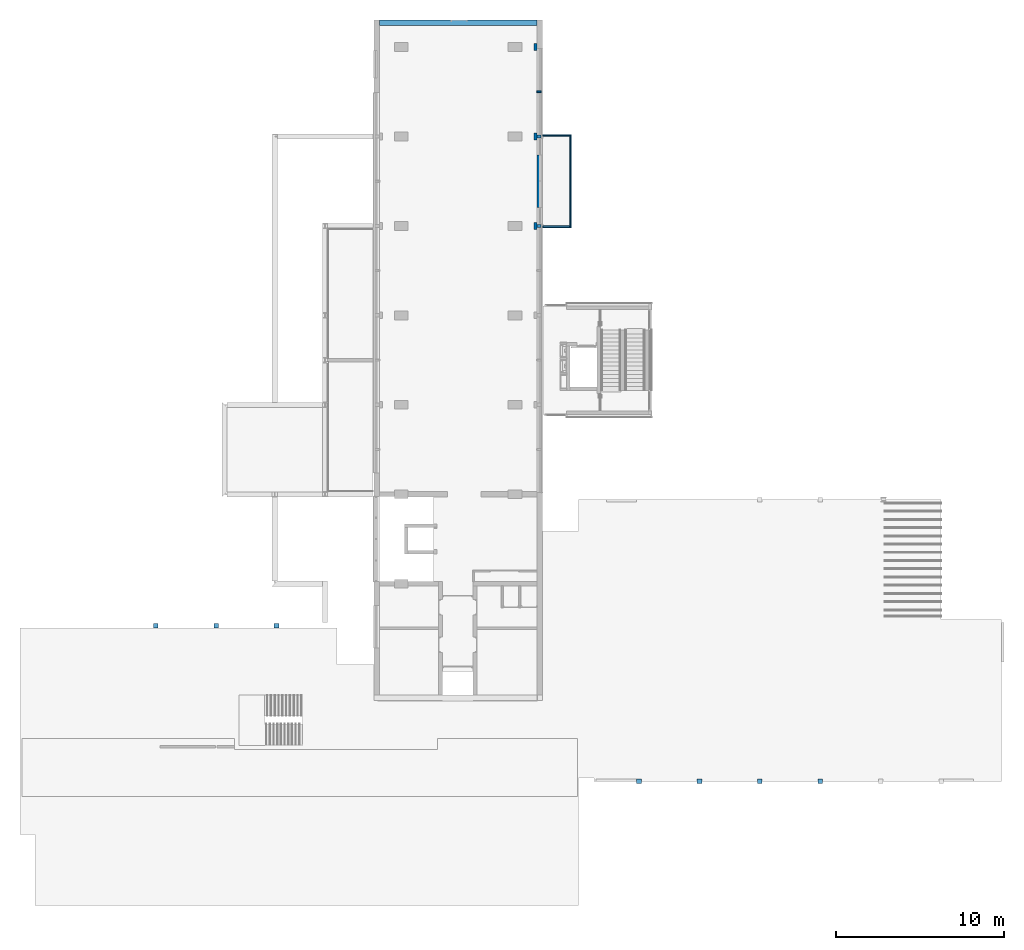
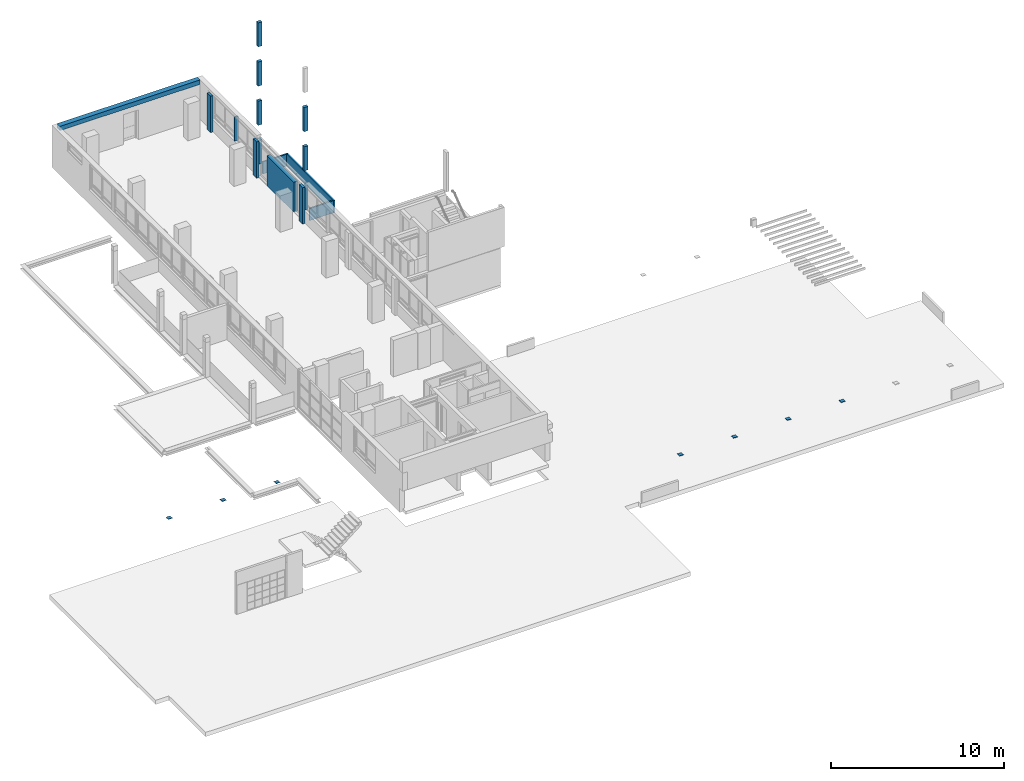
# One storey, part 13 of 22: 23 walls.
"""IFC2X3 building model written with IfcOpenShell, lengths in millimetres."""

from ifc_helpers import new_model, entity, si_unit, converted_unit, derived_unit, money_unit, direction, frame, origin_with_axes, place, context, subcontext, project, spatial, faceted_brep, material, type_object, element, save


model = new_model("IFC2X3")

# Units and contexts
model_context = context("Model", 3, precision=0.01, world=origin_with_axes(), true_north=direction((0.0, 1.0)))
body_context = subcontext(model_context, "Body", "Model", "MODEL_VIEW")
ifc_project = project(units=[si_unit("LENGTHUNIT", "METRE", prefix="MILLI"), si_unit("AREAUNIT", "SQUARE_METRE"), si_unit("VOLUMEUNIT", "CUBIC_METRE"), converted_unit("PLANEANGLEUNIT", "DEGREE", entity("IfcPlaneAngleMeasure", 0.0174532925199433), si_unit("PLANEANGLEUNIT", "RADIAN"), dimensions=[0, 0, 0, 0, 0, 0, 0]), money_unit("EUR"), converted_unit("TIMEUNIT", "Year", entity("IfcTimeMeasure", 31557600.0), si_unit("TIMEUNIT", "SECOND"), dimensions=[0, 0, 1, 0, 0, 0, 0]), si_unit("MASSUNIT", "GRAM", prefix="KILO"), si_unit("THERMODYNAMICTEMPERATUREUNIT", "DEGREE_CELSIUS"), si_unit("LUMINOUSINTENSITYUNIT", "LUMEN"), si_unit("ENERGYUNIT", "JOULE", prefix="MEGA"), derived_unit("THERMALCONDUCTANCEUNIT", [(si_unit("POWERUNIT", "WATT"), 1), (si_unit("LENGTHUNIT", "METRE"), -1), (si_unit("THERMODYNAMICTEMPERATUREUNIT", "KELVIN"), -1)]), derived_unit("SPECIFICHEATCAPACITYUNIT", [(si_unit("ENERGYUNIT", "JOULE"), 1), (si_unit("MASSUNIT", "GRAM", prefix="KILO"), -1), (si_unit("THERMODYNAMICTEMPERATUREUNIT", "KELVIN"), -1)]), derived_unit("MASSDENSITYUNIT", [(si_unit("MASSUNIT", "GRAM", prefix="KILO"), 1), (si_unit("VOLUMEUNIT", "CUBIC_METRE"), -1)])], contexts=[model_context])

# Site, building, storey
site_placement = place(None, origin_with_axes())
site = spatial("IfcSite", under=ifc_project, at=site_placement, Name="Site", CompositionType="ELEMENT")
building_placement = place(site_placement, origin_with_axes())
building = spatial("IfcBuilding", under=site, at=building_placement, Name="Naam gebouw", CompositionType="ELEMENT")
storey_placement = place(building_placement, frame((0.0, 0.0, 8690.0), z_axis=(0.0, 0.0, 1.0), x_axis=(1.0, 0.0, 0.0)))
storey = spatial("IfcBuildingStorey", under=building, at=storey_placement, Name="2e verdieping V", CompositionType="ELEMENT", Elevation=8690.0)

# Walls
ifc_material = material(Name="ALG - CONSTRUCTIEF")
wall_type_1 = type_object("IfcWallType", Name="ALG - CONSTRUCTIEF 100", PredefinedType="NOTDEFINED")
wall_1_placement = place(storey_placement, frame((31924.99999999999, 49325.9124251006, -99.99999999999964), z_axis=(0.0, 0.0, 1.0), x_axis=(0.0, -1.0, 0.0)))
element("IfcWall", 1, at=wall_1_placement, inside=storey, type_object=wall_type_1, material=ifc_material, Name="_Wand-x", context=body_context, shape_type="Brep", body=[
    faceted_brep([(5479.999999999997, 50.00000000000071, 949.9999999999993), (5479.999999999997, 50.00000000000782, 99.99999999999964), (49.99999999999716, 50.00000000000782, 99.99999999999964), (49.99999999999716, 50.00000000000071, 949.9999999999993), (5479.999999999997, -50.00000000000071, 949.9999999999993), (5479.999999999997, -50.00000000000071, 99.99999999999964), (49.99999999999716, -50.00000000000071, 99.99999999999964), (49.99999999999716, -50.00000000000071, 949.9999999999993)], [[[0, 1, 2, 3]], [[4, 5, 1, 0]], [[5, 6, 2, 1]], [[3, 2, 6, 7]], [[7, 4, 0, 3]], [[7, 6, 5, 4]]]),
])
wall_2_placement = place(storey_placement, frame((30274.99999999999, 43895.9124251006, -99.99999999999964), z_axis=(0.0, 0.0, 1.0), x_axis=(1.0, 0.0, 0.0)))
element("IfcWall", 2, at=wall_2_placement, inside=storey, type_object=wall_type_1, material=ifc_material, Name="_Wand-x", context=body_context, shape_type="Brep", body=[
    faceted_brep([(1600.000000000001, -49.99999999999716, 949.9999999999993), (1600.000000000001, -49.99999999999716, 99.99999999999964), (1600.000000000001, 49.99999999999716, 99.99999999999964), (1600.000000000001, 49.99999999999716, 949.9999999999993), (0.0, -49.99999999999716, 949.9999999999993), (0.0, -49.99999999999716, 99.99999999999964), (0.0, 49.99999999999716, 99.99999999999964), (0.0, 49.99999999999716, 949.9999999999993)], [[[0, 1, 2, 3]], [[4, 5, 1, 0]], [[5, 6, 2, 1]], [[3, 2, 6, 7]], [[4, 0, 3, 7]], [[7, 6, 5, 4]]]),
])
wall_3_placement = place(storey_placement, frame((30274.99999999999, 49325.9124251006, -99.99999999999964), z_axis=(0.0, 0.0, 1.0), x_axis=(1.0, 0.0, 0.0)))
element("IfcWall", 3, at=wall_3_placement, inside=storey, type_object=wall_type_1, material=ifc_material, Name="_Wand-x", context=body_context, shape_type="Brep", body=[
    faceted_brep([(1699.999999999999, -49.99999999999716, 949.9999999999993), (1700.000000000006, -49.99999999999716, 99.99999999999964), (1700.000000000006, 50.00000000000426, 99.99999999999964), (1699.999999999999, 49.99999999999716, 949.9999999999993), (0.0, -49.99999999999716, 949.9999999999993), (0.0, -49.99999999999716, 99.99999999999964), (0.0, 50.00000000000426, 99.99999999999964), (0.0, 49.99999999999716, 949.9999999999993)], [[[0, 1, 2, 3]], [[4, 5, 1, 0]], [[5, 6, 2, 1]], [[3, 2, 6, 7]], [[4, 0, 3, 7]], [[7, 6, 5, 4]]]),
])
wall_type_2 = type_object("IfcWallType", Name="ALG - CONSTRUCTIEF 330", PredefinedType="NOTDEFINED")
wall_4_placement = place(storey_placement, frame((20536.0, 56215.91242510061, 0.0), z_axis=(0.0, 0.0, 1.0), x_axis=(1.0, 0.0, 0.0)))
element("IfcWall", 4, at=wall_4_placement, inside=storey, type_object=wall_type_2, material=ifc_material, Name="_Wand-x", context=body_context, shape_type="Brep", body=[
    faceted_brep([(9370.000000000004, 0.0, 2460.000000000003), (0.0, 0.0, 2460.000000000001), (0.0, 0.0, 2770.000000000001), (9370.000000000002, 0.0, 2770.000000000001), (9370.000000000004, -329.9999999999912, 2460.000000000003), (0.0, -329.9999999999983, 2460.000000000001), (0.0, -329.9999999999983, 2770.000000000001), (9370.000000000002, -329.9999999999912, 2770.000000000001)], [[[0, 1, 2, 3]], [[4, 5, 1, 0]], [[5, 6, 2, 1]], [[3, 2, 6, 7]], [[7, 4, 0, 3]], [[7, 6, 5, 4]]]),
])
wall_type_3 = type_object("IfcWallType", Name="ALG - CONSTRUCTIEF 400", PredefinedType="NOTDEFINED")
for number, where, z_axis, x_axis, name in (
    (5, (29745.0, 43945.9124251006, -99.99999999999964), (0.0, 0.0, 1.0), (1.0, 0.0, 0.0), "_Wand-x"),
    (6, (29745.0, 54605.9124251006, -99.99999999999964), (0.0, 0.0, 1.0), (1.0, 0.0, 0.0), "_Wand-x"),
    (7, (29745.0, 49275.9124251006, -99.99999999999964), (0.0, 0.0, 1.0), (1.0, 0.0, 0.0), "_Wand-x"),
):
    element("IfcWall", number, at=place(storey_placement, frame(where, z_axis=z_axis, x_axis=x_axis)), inside=storey, type_object=wall_type_3, material=ifc_material, Name=name, context=body_context, shape_type="Brep", body=[
        faceted_brep([(0.0, 200.0000000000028, 99.99999999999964), (0.0, 200.0000000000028, 2670.000000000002), (161.0000000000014, 200.0000000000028, 2670.000000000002), (161.0000000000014, 200.0000000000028, 99.99999999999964), (0.0, -200.0000000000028, 99.99999999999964), (0.0, -200.0000000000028, 2670.000000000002), (161.0000000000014, -200.0000000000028, 2670.000000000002), (161.0000000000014, -200.0000000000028, 99.99999999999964)], [[[0, 1, 2, 3]], [[4, 5, 1, 0]], [[5, 6, 2, 1]], [[3, 2, 6, 7]], [[4, 0, 3, 7]], [[7, 6, 5, 4]]]),
    ])
wall_type_4 = type_object("IfcWallType", Name="ALG - CONSTRUCTIEF 260", PredefinedType="NOTDEFINED")
wall_5_placement = place(storey_placement, frame((30166.0, 49175.91242510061, 9160.000000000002), z_axis=(0.0, 0.0, 1.0), x_axis=(0.0, 1.0, 0.0)))
element("IfcWall", 8, at=wall_5_placement, inside=storey, type_object=wall_type_4, material=ifc_material, Name="_Wand-x", context=body_context, shape_type="Brep", body=[
    faceted_brep([(0.0, 0.0, 1699.999999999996), (0.0, 0.0, 17.63269807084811), (199.9999999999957, 0.0, 17.63269807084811), (199.9999999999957, 0.0, 1699.999999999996), (0.0, 5.000000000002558, 28.51433297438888), (0.0, 5.000000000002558, 18.51433297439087), (0.0, 260.0000000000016, 1699.999999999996), (0.0, 260.0000000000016, 0.0), (0.0, 0.0, 0.0), (0.0, 0.0, 15.60184484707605), (0.0, 7.000000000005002, 16.83613371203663), (0.0, 7.000000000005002, 28.51433297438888), (199.9999999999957, 5.000000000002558, 18.51433297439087), (199.9999999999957, 7.000000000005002, 28.51433297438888), (199.9999999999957, 7.000000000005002, 16.83613371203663), (199.9999999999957, 0.0, 15.60184484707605), (199.9999999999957, 0.0, 0.0), (199.9999999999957, 260.0000000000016, 0.0), (199.9999999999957, 260.0000000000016, 1699.999999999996), (199.9999999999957, 5.000000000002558, 28.51433297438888)], [[[0, 1, 2, 3]], [[4, 5, 1, 0, 6, 7, 8, 9, 10, 11]], [[5, 12, 2, 1]], [[13, 14, 15, 16, 17, 18, 3, 2, 12, 19]], [[6, 0, 3, 18]], [[4, 19, 12, 5]], [[7, 6, 18, 17]], [[8, 7, 17, 16]], [[16, 15, 9, 8]], [[10, 9, 15, 14]], [[10, 14, 13, 11]], [[11, 13, 19, 4]]]),
])
wall_6_placement = place(storey_placement, frame((30166.0, 49175.91242510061, 3620.000000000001), z_axis=(0.0, 0.0, 1.0), x_axis=(0.0, 1.0, 0.0)))
element("IfcWall", 9, at=wall_6_placement, inside=storey, type_object=wall_type_4, material=ifc_material, Name="_Wand-x", context=body_context, shape_type="Brep", body=[
    faceted_brep([(0.0, 0.0, 1700.000000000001), (0.0, 0.0, 17.63269807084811), (199.9999999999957, 0.0, 17.63269807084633), (199.9999999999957, 0.0, 1700.000000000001), (0.0, 5.000000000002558, 28.51433297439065), (0.0, 5.000000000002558, 18.51433297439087), (0.0, 260.0000000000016, 1700.000000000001), (0.0, 260.0000000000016, 0.0), (0.0, 0.0, 0.0), (0.0, 0.0, 15.60184484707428), (0.0, 7.000000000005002, 16.83613371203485), (0.0, 7.000000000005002, 28.51433297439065), (199.9999999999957, 5.000000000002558, 18.51433297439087), (199.9999999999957, 7.000000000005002, 28.51433297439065), (199.9999999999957, 7.000000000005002, 16.83613371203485), (199.9999999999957, 0.0, 15.60184484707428), (199.9999999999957, 0.0, 0.0), (199.9999999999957, 260.0000000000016, 0.0), (199.9999999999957, 260.0000000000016, 1700.000000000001), (199.9999999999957, 5.000000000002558, 28.51433297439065)], [[[0, 1, 2, 3]], [[4, 5, 1, 0, 6, 7, 8, 9, 10, 11]], [[5, 12, 2, 1]], [[13, 14, 15, 16, 17, 18, 3, 2, 12, 19]], [[6, 0, 3, 18]], [[4, 19, 12, 5]], [[7, 6, 18, 17]], [[8, 7, 17, 16]], [[16, 15, 9, 8]], [[10, 9, 15, 14]], [[10, 14, 13, 11]], [[11, 13, 19, 4]]]),
])
wall_7_placement = place(storey_placement, frame((30166.0, 45042.42294483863, 0.0), z_axis=(0.0, 0.0, 1.0), x_axis=(0.0, 1.0, 0.0)))
element("IfcWall", 10, at=wall_7_placement, inside=storey, type_object=wall_type_4, material=ifc_material, Name="_Wand-x", context=body_context, shape_type="Brep", body=[
    faceted_brep([(0.0, 260.0000000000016, 0.0), (3133.489480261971, 260.0000000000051, 0.0), (3133.489480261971, 0.0, 0.0), (0.0, 0.0, 0.0), (0.0, 260.0000000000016, 2113.022917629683), (3133.489480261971, 260.0000000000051, 2113.022917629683), (3133.489480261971, 0.0, 2113.022917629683), (0.0, 0.0, 2113.022917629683)], [[[0, 1, 2, 3]], [[4, 5, 1, 0]], [[2, 1, 5, 6]], [[3, 2, 6, 7]], [[4, 0, 3, 7]], [[7, 6, 5, 4]]]),
])
wall_8_placement = place(storey_placement, frame((30166.0, 49175.91242510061, 849.9999999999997), z_axis=(0.0, 0.0, 1.0), x_axis=(0.0, 1.0, 0.0)))
element("IfcWall", 11, at=wall_8_placement, inside=storey, type_object=wall_type_4, material=ifc_material, Name="_Wand-x", context=body_context, shape_type="Brep", body=[
    faceted_brep([(0.0, 0.0, 1699.999999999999), (0.0, 0.0, 17.63269807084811), (199.9999999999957, 0.0, 17.63269807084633), (199.9999999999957, 0.0, 1699.999999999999), (0.0, 5.000000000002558, 28.51433297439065), (0.0, 5.000000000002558, 18.51433297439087), (0.0, 260.0000000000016, 1699.999999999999), (0.0, 260.0000000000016, 0.0), (0.0, 0.0, 0.0), (0.0, 0.0, 15.60184484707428), (0.0, 7.000000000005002, 16.83613371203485), (0.0, 7.000000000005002, 28.51433297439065), (199.9999999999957, 5.000000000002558, 18.51433297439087), (199.9999999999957, 7.000000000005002, 28.51433297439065), (199.9999999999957, 7.000000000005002, 16.83613371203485), (199.9999999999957, 0.0, 15.60184484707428), (199.9999999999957, 0.0, 0.0), (199.9999999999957, 260.0000000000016, 0.0), (199.9999999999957, 260.0000000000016, 1699.999999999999), (199.9999999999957, 5.000000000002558, 28.51433297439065)], [[[0, 1, 2, 3]], [[4, 5, 1, 0, 6, 7, 8, 9, 10, 11]], [[5, 12, 2, 1]], [[13, 14, 15, 16, 17, 18, 3, 2, 12, 19]], [[6, 0, 3, 18]], [[4, 19, 12, 5]], [[7, 6, 18, 17]], [[8, 7, 17, 16]], [[16, 15, 9, 8]], [[10, 9, 15, 14]], [[10, 14, 13, 11]], [[11, 13, 19, 4]]]),
])
for number, where, z_axis, x_axis, name in (
    (12, (46937.50000000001, 10730.9124251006, 1500.0), (0.0, 0.0, 1.0), (-1.0, 0.0, 0.0), "_Wand-x"),
    (13, (43337.49999999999, 10730.91242510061, 1500.0), (0.0, 0.0, 1.0), (-1.0, 0.0, 0.0), "_Wand-x"),
    (14, (36137.68197425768, 10730.91242510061, 1500.0), (0.0, 0.0, 1.0), (-1.0, 0.0, 0.0), "_Wand-x"),
):
    element("IfcWall", number, at=place(storey_placement, frame(where, z_axis=z_axis, x_axis=x_axis)), inside=storey, type_object=wall_type_4, material=ifc_material, Name=name, context=body_context, shape_type="Brep", body=[
        faceted_brep([(0.0, -259.9999999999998, 0.9999999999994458), (275.0000000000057, -259.9999999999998, 0.9999999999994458), (275.0000000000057, 0.0, 0.9999999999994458), (0.0, 0.0, 0.9999999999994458), (0.0, -259.9999999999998, 0.0), (275.0000000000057, -259.9999999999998, 0.0), (275.0000000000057, 0.0, 0.0), (0.0, 0.0, 0.0)], [[[0, 1, 2, 3]], [[4, 5, 1, 0]], [[2, 1, 5, 6]], [[3, 2, 6, 7]], [[4, 0, 3, 7]], [[7, 6, 5, 4]]]),
    ])
wall_9_placement = place(storey_placement, frame((30166.0, 43845.91242510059, 849.9999999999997), z_axis=(0.0, 0.0, 1.0), x_axis=(0.0, 1.0, 0.0)))
element("IfcWall", 15, at=wall_9_placement, inside=storey, type_object=wall_type_4, material=ifc_material, Name="_Wand-x", context=body_context, shape_type="Brep", body=[
    faceted_brep([(0.0, 0.0, 1699.999999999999), (0.0, 0.0, 17.63269807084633), (199.9999999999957, 0.0, 17.63269807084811), (199.9999999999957, 0.0, 1699.999999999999), (0.0, 5.000000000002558, 28.51433297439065), (0.0, 5.000000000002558, 18.51433297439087), (0.0, 260.0000000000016, 1699.999999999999), (0.0, 260.0000000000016, 0.0), (0.0, 0.0, 0.0), (0.0, 0.0, 15.60184484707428), (0.0, 7.000000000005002, 16.83613371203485), (0.0, 7.000000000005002, 28.51433297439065), (199.9999999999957, 5.000000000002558, 18.51433297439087), (199.9999999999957, 7.000000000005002, 28.51433297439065), (199.9999999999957, 7.000000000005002, 16.83613371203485), (199.9999999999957, 0.0, 15.60184484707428), (199.9999999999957, 0.0, 0.0), (199.9999999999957, 260.0000000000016, 0.0), (199.9999999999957, 260.0000000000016, 1699.999999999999), (199.9999999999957, 5.000000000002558, 28.51433297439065)], [[[0, 1, 2, 3]], [[4, 5, 1, 0, 6, 7, 8, 9, 10, 11]], [[5, 12, 2, 1]], [[13, 14, 15, 16, 17, 18, 3, 2, 12, 19]], [[6, 0, 3, 18]], [[4, 19, 12, 5]], [[7, 6, 18, 17]], [[8, 7, 17, 16]], [[16, 15, 9, 8]], [[10, 9, 15, 14]], [[10, 14, 13, 11]], [[11, 13, 19, 4]]]),
])
wall_10_placement = place(storey_placement, frame((39737.68197425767, 10730.91242510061, 1500.0), z_axis=(0.0, 0.0, 1.0), x_axis=(-1.0, 0.0, 0.0)))
element("IfcWall", 16, at=wall_10_placement, inside=storey, type_object=wall_type_4, material=ifc_material, Name="_Wand-x", context=body_context, shape_type="Brep", body=[
    faceted_brep([(0.0, -259.9999999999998, 0.9999999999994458), (275.0000000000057, -259.9999999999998, 0.9999999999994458), (275.0000000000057, 0.0, 0.9999999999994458), (0.0, 0.0, 0.9999999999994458), (0.0, -259.9999999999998, 0.0), (275.0000000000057, -259.9999999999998, 0.0), (275.0000000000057, 0.0, 0.0), (0.0, 0.0, 0.0)], [[[0, 1, 2, 3]], [[4, 5, 1, 0]], [[2, 1, 5, 6]], [[3, 2, 6, 7]], [[4, 0, 3, 7]], [[7, 6, 5, 4]]]),
])
wall_11_placement = place(storey_placement, frame((30166.0, 51890.9124251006, 849.9999999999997), z_axis=(0.0, 0.0, 1.0), x_axis=(0.0, 1.0, 0.0)))
element("IfcWall", 17, at=wall_11_placement, inside=storey, type_object=wall_type_4, material=ifc_material, Name="_Wand-x", context=body_context, shape_type="Brep", body=[
    faceted_brep([(0.0, 0.0, 1699.999999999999), (0.0, 0.0, 17.63269807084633), (100.0000000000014, 0.0, 17.63269807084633), (100.0000000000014, 0.0, 1699.999999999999), (0.0, 5.000000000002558, 28.51433297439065), (0.0, 5.000000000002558, 18.51433297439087), (0.0, 260.0000000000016, 1699.999999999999), (0.0, 260.0000000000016, 0.0), (0.0, 0.0, 0.0), (0.0, 0.0, 15.60184484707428), (0.0, 7.000000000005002, 16.83613371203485), (0.0, 7.000000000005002, 28.51433297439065), (100.0000000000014, 5.000000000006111, 18.51433297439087), (100.0000000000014, 7.000000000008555, 28.51433297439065), (100.0000000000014, 7.000000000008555, 16.83613371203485), (100.0000000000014, 0.0, 15.60184484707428), (100.0000000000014, 0.0, 0.0), (99.99999999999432, 260.0000000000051, 0.0), (99.99999999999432, 260.0000000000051, 1699.999999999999), (100.0000000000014, 5.000000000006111, 28.51433297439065)], [[[0, 1, 2, 3]], [[4, 5, 1, 0, 6, 7, 8, 9, 10, 11]], [[5, 12, 2, 1]], [[13, 14, 15, 16, 17, 18, 3, 2, 12, 19]], [[6, 0, 3, 18]], [[4, 19, 12, 5]], [[7, 6, 18, 17]], [[8, 7, 17, 16]], [[16, 15, 9, 8]], [[10, 9, 15, 14]], [[10, 14, 13, 11]], [[11, 13, 19, 4]]]),
])
wall_12_placement = place(storey_placement, frame((30166.0, 43845.91242510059, 6410.000000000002), z_axis=(0.0, 0.0, 1.0), x_axis=(0.0, 1.0, 0.0)))
element("IfcWall", 18, at=wall_12_placement, inside=storey, type_object=wall_type_4, material=ifc_material, Name="_Wand-x", context=body_context, shape_type="Brep", body=[
    faceted_brep([(199.9999999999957, 5.000000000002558, 8.514332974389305), (199.9999999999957, 7.000000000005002, 8.514332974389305), (199.9999999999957, 7.000000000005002, 0.0), (199.9999999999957, 260.0000000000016, 0.0), (199.9999999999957, 260.0000000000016, 1699.999999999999), (199.9999999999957, 0.0, 1699.999999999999), (199.9999999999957, 0.0, 0.0), (199.9999999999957, 5.000000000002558, 0.0), (0.0, 7.000000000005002, 8.514332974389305), (0.0, 5.000000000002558, 8.514332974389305), (0.0, 7.000000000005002, 0.0), (0.0, 260.0000000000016, 0.0), (0.0, 260.0000000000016, 1699.999999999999), (0.0, 0.0, 1699.999999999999), (0.0, 0.0, 0.0), (0.0, 5.000000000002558, 0.0)], [[[0, 1, 2, 3, 4, 5, 6, 7]], [[8, 1, 0, 9]], [[10, 2, 1, 8]], [[3, 2, 10, 11]], [[11, 12, 4, 3]], [[12, 13, 5, 4]], [[13, 14, 6, 5]], [[14, 15, 7, 6]], [[9, 0, 7, 15]], [[8, 9, 15, 14, 13, 12, 11, 10]]]),
])
wall_13_placement = place(storey_placement, frame((30166.0, 49175.91242510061, 6390.000000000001), z_axis=(0.0, 0.0, 1.0), x_axis=(0.0, 1.0, 0.0)))
element("IfcWall", 19, at=wall_13_placement, inside=storey, type_object=wall_type_4, material=ifc_material, Name="_Wand-x", context=body_context, shape_type="Brep", body=[
    faceted_brep([(0.0, 0.0, 1700.000000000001), (0.0, 0.0, 17.63269807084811), (199.9999999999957, 0.0, 17.63269807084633), (199.9999999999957, 0.0, 1700.000000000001), (0.0, 5.000000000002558, 28.51433297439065), (0.0, 5.000000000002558, 18.51433297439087), (0.0, 260.0000000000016, 1700.000000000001), (0.0, 260.0000000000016, 0.0), (0.0, 0.0, 0.0), (0.0, 0.0, 15.60184484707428), (0.0, 7.000000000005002, 16.83613371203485), (0.0, 7.000000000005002, 28.51433297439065), (199.9999999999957, 5.000000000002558, 18.51433297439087), (199.9999999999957, 7.000000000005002, 28.51433297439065), (199.9999999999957, 7.000000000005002, 16.83613371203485), (199.9999999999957, 0.0, 15.60184484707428), (199.9999999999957, 0.0, 0.0), (199.9999999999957, 260.0000000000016, 0.0), (199.9999999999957, 260.0000000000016, 1700.000000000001), (199.9999999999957, 5.000000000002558, 28.51433297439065)], [[[0, 1, 2, 3]], [[4, 5, 1, 0, 6, 7, 8, 9, 10, 11]], [[5, 12, 2, 1]], [[13, 14, 15, 16, 17, 18, 3, 2, 12, 19]], [[6, 0, 3, 18]], [[4, 19, 12, 5]], [[7, 6, 18, 17]], [[8, 7, 17, 16]], [[16, 15, 9, 8]], [[10, 9, 15, 14]], [[10, 14, 13, 11]], [[11, 13, 19, 4]]]),
])
for number, where, z_axis, x_axis, name in (
    (20, (14537.47427654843, 20255.8944897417, 1500.0), (0.0, 0.0, 1.0), (-1.0, 0.0, 0.0), "_Wand-x"),
    (21, (7337.480654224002, 20255.85589052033, 1500.0), (0.0, 0.0, 1.0), (-1.0, 0.0, 0.0), "_Wand-x"),
):
    element("IfcWall", number, at=place(storey_placement, frame(where, z_axis=z_axis, x_axis=x_axis)), inside=storey, type_object=wall_type_4, material=ifc_material, Name=name, context=body_context, shape_type="Brep", body=[
        faceted_brep([(0.0, 260.0000000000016, 0.0), (275.0000000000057, 260.0000000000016, 0.0), (275.0000000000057, 0.0, 0.0), (0.0, 0.0, 0.0), (0.0, 260.0000000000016, 0.9999999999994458), (275.0000000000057, 260.0000000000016, 0.9999999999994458), (275.0000000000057, 0.0, 0.9999999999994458), (0.0, 0.0, 0.9999999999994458)], [[[0, 1, 2, 3]], [[4, 5, 1, 0]], [[2, 1, 5, 6]], [[3, 2, 6, 7]], [[4, 0, 3, 7]], [[7, 6, 5, 4]]]),
    ])
wall_14_placement = place(storey_placement, frame((30166.0, 43845.91242510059, 3640.000000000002), z_axis=(0.0, 0.0, 1.0), x_axis=(0.0, 1.0, 0.0)))
element("IfcWall", 22, at=wall_14_placement, inside=storey, type_object=wall_type_4, material=ifc_material, Name="_Wand-x", context=body_context, shape_type="Brep", body=[
    faceted_brep([(199.9999999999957, 5.000000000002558, 8.514332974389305), (199.9999999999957, 7.000000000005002, 8.514332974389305), (199.9999999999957, 7.000000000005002, 0.0), (199.9999999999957, 260.0000000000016, 0.0), (199.9999999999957, 260.0000000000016, 1699.999999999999), (199.9999999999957, 0.0, 1699.999999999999), (199.9999999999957, 0.0, 0.0), (199.9999999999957, 5.000000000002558, 0.0), (0.0, 7.000000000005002, 8.514332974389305), (0.0, 5.000000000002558, 8.514332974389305), (0.0, 7.000000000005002, 0.0), (0.0, 260.0000000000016, 0.0), (0.0, 260.0000000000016, 1699.999999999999), (0.0, 0.0, 1699.999999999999), (0.0, 0.0, 0.0), (0.0, 5.000000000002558, 0.0)], [[[0, 1, 2, 3, 4, 5, 6, 7]], [[8, 1, 0, 9]], [[10, 2, 1, 8]], [[3, 2, 10, 11]], [[11, 12, 4, 3]], [[12, 13, 5, 4]], [[13, 14, 6, 5]], [[14, 15, 7, 6]], [[9, 0, 7, 15]], [[8, 9, 15, 14, 13, 12, 11, 10]]]),
])
wall_15_placement = place(storey_placement, frame((10937.49865604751, 20255.8744985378, 1500.0), z_axis=(0.0, 0.0, 1.0), x_axis=(-1.0, 0.0, 0.0)))
element("IfcWall", 23, at=wall_15_placement, inside=storey, type_object=wall_type_4, material=ifc_material, Name="_Wand-x", context=body_context, shape_type="Brep", body=[
    faceted_brep([(0.0, 260.0000000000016, 0.0), (275.0000000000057, 260.0000000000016, 0.0), (275.0000000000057, 0.0, 0.0), (0.0, 0.0, 0.0), (0.0, 260.0000000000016, 0.9999999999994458), (275.0000000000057, 260.0000000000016, 0.9999999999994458), (275.0000000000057, 0.0, 0.9999999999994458), (0.0, 0.0, 0.9999999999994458)], [[[0, 1, 2, 3]], [[4, 5, 1, 0]], [[2, 1, 5, 6]], [[3, 2, 6, 7]], [[4, 0, 3, 7]], [[7, 6, 5, 4]]]),
])

save(model, "model.ifc")
